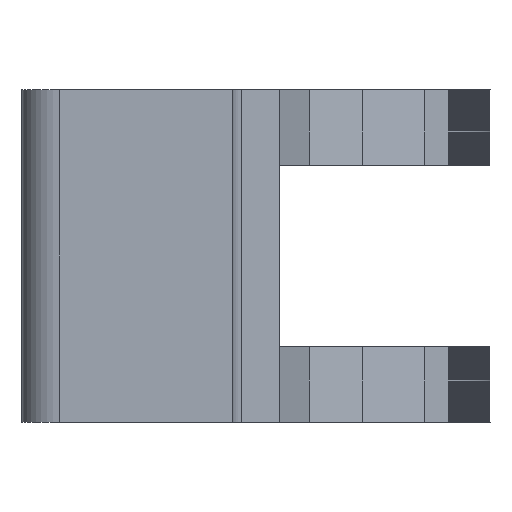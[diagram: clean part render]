
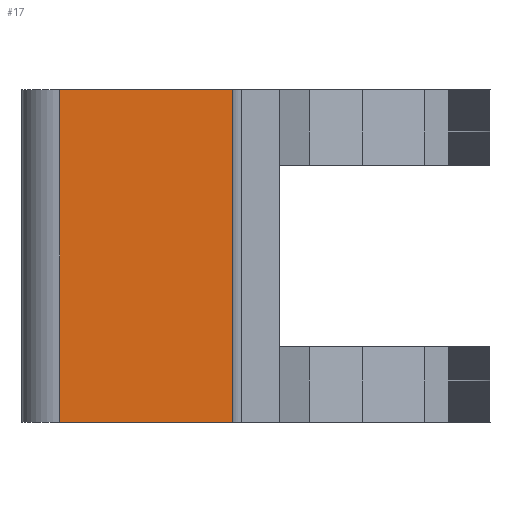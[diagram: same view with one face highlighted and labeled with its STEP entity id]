
A CAD part, left-side view. The second image highlights one B-rep face of the part: STEP entity #17.
In plain terms, the highlighted planar face has unit normal (-1, 0, 0).
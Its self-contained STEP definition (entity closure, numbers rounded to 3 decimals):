
#17 = ADVANCED_FACE('',(#18),#32,.F.);
#18 = FACE_BOUND('',#19,.F.);
#19 = EDGE_LOOP('',(#20,#55,#81,#109));
#20 = ORIENTED_EDGE('',*,*,#21,.F.);
#21 = EDGE_CURVE('',#22,#24,#26,.T.);
#22 = VERTEX_POINT('',#23);
#23 = CARTESIAN_POINT('',(0.,28.083,22.));
#24 = VERTEX_POINT('',#25);
#25 = CARTESIAN_POINT('',(0.,39.5,22.));
#26 = SURFACE_CURVE('',#27,(#31,#43),.PCURVE_S1.);
#27 = LINE('',#28,#29);
#28 = CARTESIAN_POINT('',(0.,25.,22.));
#29 = VECTOR('',#30,1.);
#30 = DIRECTION('',(0.,1.,0.));
#31 = PCURVE('',#32,#37);
#32 = PLANE('',#33);
#33 = AXIS2_PLACEMENT_3D('',#34,#35,#36);
#34 = CARTESIAN_POINT('',(0.,25.,0.));
#35 = DIRECTION('',(1.,0.,0.));
#36 = DIRECTION('',(0.,0.,1.));
#37 = DEFINITIONAL_REPRESENTATION('',(#38),#42);
#38 = LINE('',#39,#40);
#39 = CARTESIAN_POINT('',(22.,0.));
#40 = VECTOR('',#41,1.);
#41 = DIRECTION('',(0.,-1.));
#42 = ( GEOMETRIC_REPRESENTATION_CONTEXT(2) 
PARAMETRIC_REPRESENTATION_CONTEXT() REPRESENTATION_CONTEXT('2D SPACE',''
  ) );
#43 = PCURVE('',#44,#49);
#44 = PLANE('',#45);
#45 = AXIS2_PLACEMENT_3D('',#46,#47,#48);
#46 = CARTESIAN_POINT('',(0.,25.,22.));
#47 = DIRECTION('',(0.,0.,1.));
#48 = DIRECTION('',(1.,0.,0.));
#49 = DEFINITIONAL_REPRESENTATION('',(#50),#54);
#50 = LINE('',#51,#52);
#51 = CARTESIAN_POINT('',(0.,0.));
#52 = VECTOR('',#53,1.);
#53 = DIRECTION('',(0.,1.));
#54 = ( GEOMETRIC_REPRESENTATION_CONTEXT(2) 
PARAMETRIC_REPRESENTATION_CONTEXT() REPRESENTATION_CONTEXT('2D SPACE',''
  ) );
#55 = ORIENTED_EDGE('',*,*,#56,.F.);
#56 = EDGE_CURVE('',#57,#22,#59,.T.);
#57 = VERTEX_POINT('',#58);
#58 = CARTESIAN_POINT('',(0.,28.083,0.));
#59 = SURFACE_CURVE('',#60,(#64,#70),.PCURVE_S1.);
#60 = LINE('',#61,#62);
#61 = CARTESIAN_POINT('',(0.,28.083,0.));
#62 = VECTOR('',#63,1.);
#63 = DIRECTION('',(0.,0.,1.));
#64 = PCURVE('',#32,#65);
#65 = DEFINITIONAL_REPRESENTATION('',(#66),#69);
#66 = B_SPLINE_CURVE_WITH_KNOTS('',1,(#67,#68),.UNSPECIFIED.,.F.,.F.,(2,
    2),(0.,22.),.PIECEWISE_BEZIER_KNOTS.);
#67 = CARTESIAN_POINT('',(0.,-3.083));
#68 = CARTESIAN_POINT('',(22.,-3.083));
#69 = ( GEOMETRIC_REPRESENTATION_CONTEXT(2) 
PARAMETRIC_REPRESENTATION_CONTEXT() REPRESENTATION_CONTEXT('2D SPACE',''
  ) );
#70 = PCURVE('',#71,#76);
#71 = CYLINDRICAL_SURFACE('',#72,2.2);
#72 = AXIS2_PLACEMENT_3D('',#73,#74,#75);
#73 = CARTESIAN_POINT('',(-0.42,25.924,0.));
#74 = DIRECTION('',(0.,0.,1.));
#75 = DIRECTION('',(-0.707,0.707,0.));
#76 = DEFINITIONAL_REPRESENTATION('',(#77),#80);
#77 = B_SPLINE_CURVE_WITH_KNOTS('',1,(#78,#79),.UNSPECIFIED.,.F.,.F.,(2,
    2),(0.,22.),.PIECEWISE_BEZIER_KNOTS.);
#78 = CARTESIAN_POINT('',(-0.978,0.));
#79 = CARTESIAN_POINT('',(-0.978,22.));
#80 = ( GEOMETRIC_REPRESENTATION_CONTEXT(2) 
PARAMETRIC_REPRESENTATION_CONTEXT() REPRESENTATION_CONTEXT('2D SPACE',''
  ) );
#81 = ORIENTED_EDGE('',*,*,#82,.T.);
#82 = EDGE_CURVE('',#57,#83,#85,.T.);
#83 = VERTEX_POINT('',#84);
#84 = CARTESIAN_POINT('',(0.,39.5,0.));
#85 = SURFACE_CURVE('',#86,(#90,#97),.PCURVE_S1.);
#86 = LINE('',#87,#88);
#87 = CARTESIAN_POINT('',(0.,25.,0.));
#88 = VECTOR('',#89,1.);
#89 = DIRECTION('',(0.,1.,0.));
#90 = PCURVE('',#32,#91);
#91 = DEFINITIONAL_REPRESENTATION('',(#92),#96);
#92 = LINE('',#93,#94);
#93 = CARTESIAN_POINT('',(0.,0.));
#94 = VECTOR('',#95,1.);
#95 = DIRECTION('',(0.,-1.));
#96 = ( GEOMETRIC_REPRESENTATION_CONTEXT(2) 
PARAMETRIC_REPRESENTATION_CONTEXT() REPRESENTATION_CONTEXT('2D SPACE',''
  ) );
#97 = PCURVE('',#98,#103);
#98 = PLANE('',#99);
#99 = AXIS2_PLACEMENT_3D('',#100,#101,#102);
#100 = CARTESIAN_POINT('',(0.,25.,0.));
#101 = DIRECTION('',(0.,0.,1.));
#102 = DIRECTION('',(1.,0.,0.));
#103 = DEFINITIONAL_REPRESENTATION('',(#104),#108);
#104 = LINE('',#105,#106);
#105 = CARTESIAN_POINT('',(0.,0.));
#106 = VECTOR('',#107,1.);
#107 = DIRECTION('',(0.,1.));
#108 = ( GEOMETRIC_REPRESENTATION_CONTEXT(2) 
PARAMETRIC_REPRESENTATION_CONTEXT() REPRESENTATION_CONTEXT('2D SPACE',''
  ) );
#109 = ORIENTED_EDGE('',*,*,#110,.T.);
#110 = EDGE_CURVE('',#83,#24,#111,.T.);
#111 = SURFACE_CURVE('',#112,(#116,#123),.PCURVE_S1.);
#112 = LINE('',#113,#114);
#113 = CARTESIAN_POINT('',(0.,39.5,0.));
#114 = VECTOR('',#115,1.);
#115 = DIRECTION('',(0.,0.,1.));
#116 = PCURVE('',#32,#117);
#117 = DEFINITIONAL_REPRESENTATION('',(#118),#122);
#118 = LINE('',#119,#120);
#119 = CARTESIAN_POINT('',(0.,-14.5));
#120 = VECTOR('',#121,1.);
#121 = DIRECTION('',(1.,0.));
#122 = ( GEOMETRIC_REPRESENTATION_CONTEXT(2) 
PARAMETRIC_REPRESENTATION_CONTEXT() REPRESENTATION_CONTEXT('2D SPACE',''
  ) );
#123 = PCURVE('',#124,#129);
#124 = CYLINDRICAL_SURFACE('',#125,2.5);
#125 = AXIS2_PLACEMENT_3D('',#126,#127,#128);
#126 = CARTESIAN_POINT('',(2.5,39.5,0.));
#127 = DIRECTION('',(0.,0.,1.));
#128 = DIRECTION('',(-1.,-0.,0.));
#129 = DEFINITIONAL_REPRESENTATION('',(#130),#134);
#130 = LINE('',#131,#132);
#131 = CARTESIAN_POINT('',(-0.,0.));
#132 = VECTOR('',#133,1.);
#133 = DIRECTION('',(-0.,1.));
#134 = ( GEOMETRIC_REPRESENTATION_CONTEXT(2) 
PARAMETRIC_REPRESENTATION_CONTEXT() REPRESENTATION_CONTEXT('2D SPACE',''
  ) );
